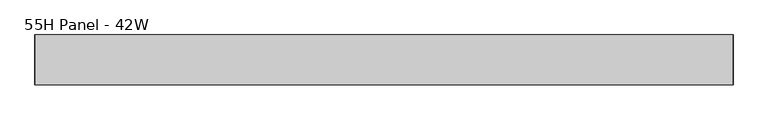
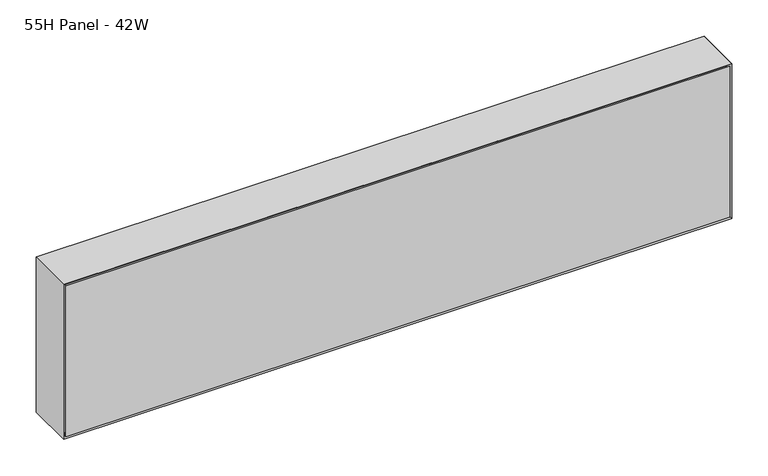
"""IFC4 building model written with IfcOpenShell, lengths in millimetres: furniture geometry, Steelcase - Montage - Frame - 10H - Enhanced Standard - Single Stack-On : 55H Panel - 42W."""

from ifc_helpers import new_model, si_unit, frame, origin, place, context, project, spatial, polyline, outline, extrude, faceted_brep, source, transform, mapped, element, save


def furniture_55h_panel_42w_279f6cbd(model_context):
    return source(origin(), model_context, "Body", "SolidModel", [
        faceted_brep([(1057.2750027, 31.7500194, 1651.0127415), (9.5250028, 31.7500194, 1651.0127415), (9.5250028, 31.7500194, 1408.1125), (1057.2750027, 31.7500194, 1408.1125), (1063.625, 38.1000194, 1657.3627415), (1063.625, 38.1000194, 1401.7625), (3.175, 38.1000194, 1401.7625), (3.175, 38.1000194, 1657.3627415)], [[[0, 1, 2, 3]], [[4, 5, 6, 7]], [[4, 0, 3, 5]], [[5, 3, 2, 6]], [[6, 2, 1, 7]], [[7, 1, 0, 4]]]),
        faceted_brep([(1057.2750027, -31.7500194, 1651.0127415), (1057.2750027, -31.7500194, 1408.1125), (9.5250028, -31.7500194, 1408.1125), (9.5250028, -31.7500194, 1651.0127415), (1063.625, -38.1000194, 1657.3627415), (3.175, -38.1000194, 1657.3627415), (3.175, -38.1000194, 1401.7625), (1063.625, -38.1000194, 1401.7625)], [[[0, 1, 2, 3]], [[4, 5, 6, 7]], [[4, 7, 1, 0]], [[7, 6, 2, 1]], [[6, 5, 3, 2]], [[5, 4, 0, 3]]]),
        faceted_brep([(1066.8, -38.1000015, 1398.5875), (1066.8, 38.1000015, 1398.5875), (1066.8, 38.1000015, 1660.5377415), (1066.8, -38.1000106, 1660.5377414), (0.0, 38.1000015, 1398.5875), (0.0, -38.1000015, 1398.5875), (0.0, -38.1000015, 1660.5377415), (0.0, 38.1000015, 1660.5377415), (6.3500484, 31.749953, 1404.9375484), (1060.4499879, 31.749953, 1404.9375484), (6.35, -31.749953, 1404.9375484), (1060.4499879, -31.749953, 1404.9375484), (6.3500169, 31.7499846, 1654.1877245), (6.3500012, -31.7500003, 1654.187693), (1060.4499879, -31.7499973, 1654.187693), (1060.4499879, 31.7499885, 1654.1877293)], [[[0, 1, 2, 3]], [[4, 5, 6, 7]], [[1, 0, 5, 4]], [[1, 4, 8, 9]], [[9, 8, 10, 11]], [[5, 0, 11, 10]], [[4, 7, 12, 8]], [[6, 5, 10, 13]], [[10, 8, 12, 13]], [[9, 11, 14, 15]], [[0, 3, 14, 11]], [[2, 1, 9, 15]], [[3, 2, 15, 14]], [[7, 6, 13, 12]]]),
        faceted_brep([(1066.8, -38.1000015, 1660.5377415), (0.0, -38.1000015, 1660.5377415), (6.3500484, -31.749953, 1654.187693), (1060.4499516, -31.749953, 1654.187693), (6.3500484, 31.749953, 1654.187693), (1060.4499516, 31.749953, 1654.187693), (0.0, 38.1000015, 1660.5377415), (1066.8, 38.1000015, 1660.5377415)], [[[0, 1, 2, 3]], [[3, 2, 4, 5]], [[6, 7, 5, 4]], [[1, 0, 7, 6]], [[2, 1, 6, 4]], [[0, 3, 5, 7]]]),
        extrude(outline(polyline([(1060.4499879, 31.7500016), (1060.4499879, -31.7499985), (6.35, -31.7499985), (6.35, 31.7500016), (1060.4499879, 31.7500016)])), frame((0.0, 0.0, 1404.9327145), z_axis=(0.0, 0.0, 1.0), x_axis=(1.0, 0.0, 0.0)), (0.0, 0.0, 1.0), 249.2549785),
    ])


if __name__ == "__main__":
    model = new_model("IFC4")
    model_context = context("Model", 3, world=origin())
    ifc_project = project(units=[si_unit("LENGTHUNIT", "METRE", prefix="MILLI")], contexts=[model_context])
    site = spatial("IfcSite", under=ifc_project)
    building = spatial("IfcBuilding", under=site)
    placement = place(None, origin())
    furniture_55h_panel_42w_shape = furniture_55h_panel_42w_279f6cbd(model_context)
    element("IfcFurniture", 1, ObjectType="Steelcase - Montage - Frame - 10H - Enhanced Standard - Single Stack-On : 55H Panel - 42W", at=placement, inside=building, context=model_context, shape_type="MappedRepresentation", body=[
        mapped(furniture_55h_panel_42w_shape, transform((0.0, 0.0, 0.0), x_axis=(1.0, 0.0, 0.0), y_axis=(0.0, 1.0, 0.0), z_axis=(0.0, 0.0, 1.0))),
    ])
    save(model, "model.ifc")
